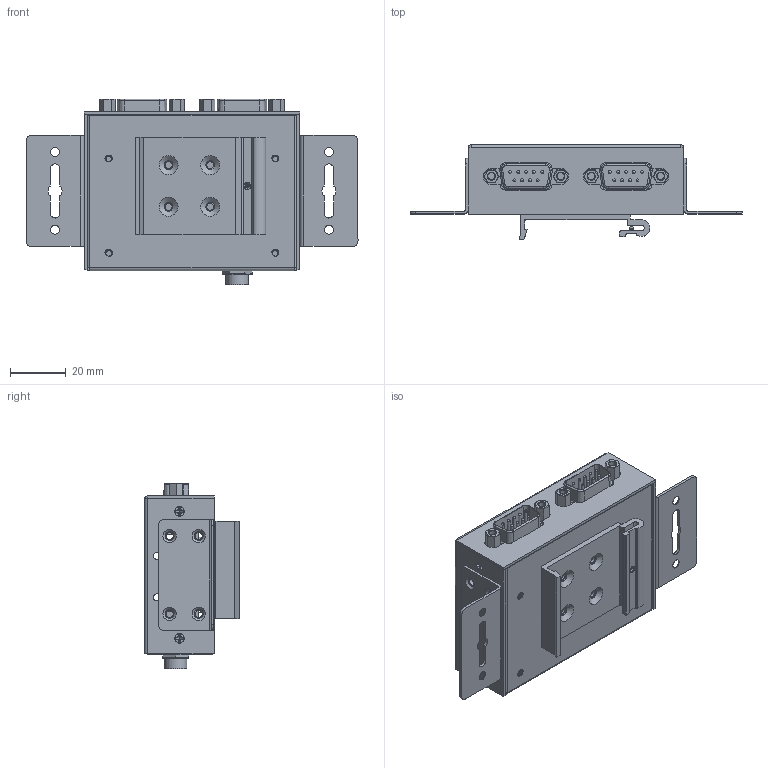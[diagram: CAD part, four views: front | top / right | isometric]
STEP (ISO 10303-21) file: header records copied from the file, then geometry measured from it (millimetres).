
FILE_DESCRIPTION(/* description */ (''),/* implementation_level */ '2;1');
FILE_NAME(/* name */ 'C:/Users/Leo/Desktop/GM-FTDI2X/GM-FTDI2X-M Model3D LPV1.step',/* time_stamp */ '2021-04-09T14:21:32-04:00',/* author */ (''),/* organization */ (''),/* preprocessor_version */ 'ST-DEVELOPER v18.1',/* originating_system */ 'Autodesk Translation Framework v10.6.0.1341',/* authorisation */ '');
FILE_SCHEMA (('AUTOMOTIVE_DESIGN { 1 0 10303 214 3 1 1 }'));
Products named in the file (5): GM-FTDI2X-M; side bracket GM mounting B_1_1 v1; side bracket GM rail clip v1; side bracket GM mounting B_1_1 v1(Mirror); Component28
Assembly tree (4 placements, depth 2):
  GM-FTDI2X-M
    side bracket GM mounting B_1_1 v1
    side bracket GM rail clip v1
    side bracket GM mounting B_1_1 v1(Mirror)
    Component28
Bounding box: 119.65 x 34.01 x 66.79 mm (x, y, z)
Volume: 39580.4 mm3; surface area: 60038.5 mm2
Topology: 8 solids, 13 shells, 1776 faces, 5037 edges, 3275 vertices
Faces by surface type: plane 1138, cylinder 471, cone 88, bspline 31, torus 25, sphere 23
Full cylindrical faces by diameter (mm): 1 x18, 1.5 x1, 2.02 x28, 2.4 x1, 2.529 x20, 2.6 x4, 2.8 x9, 2.845 x32, 2.998 x5, 3 x8, 3.2 x16, 3.643 x5, 4.191 x4, 7 x1, 8 x2, 8.02 x1, 8.3 x1, 10 x1
Entity records: 68681 total; most frequent: CARTESIAN_POINT 22367, ORIENTED_EDGE 10012, DIRECTION 8996, EDGE_CURVE 5006, LINE 3602, VECTOR 3602, VERTEX_POINT 3275, AXIS2_PLACEMENT_3D 2697
